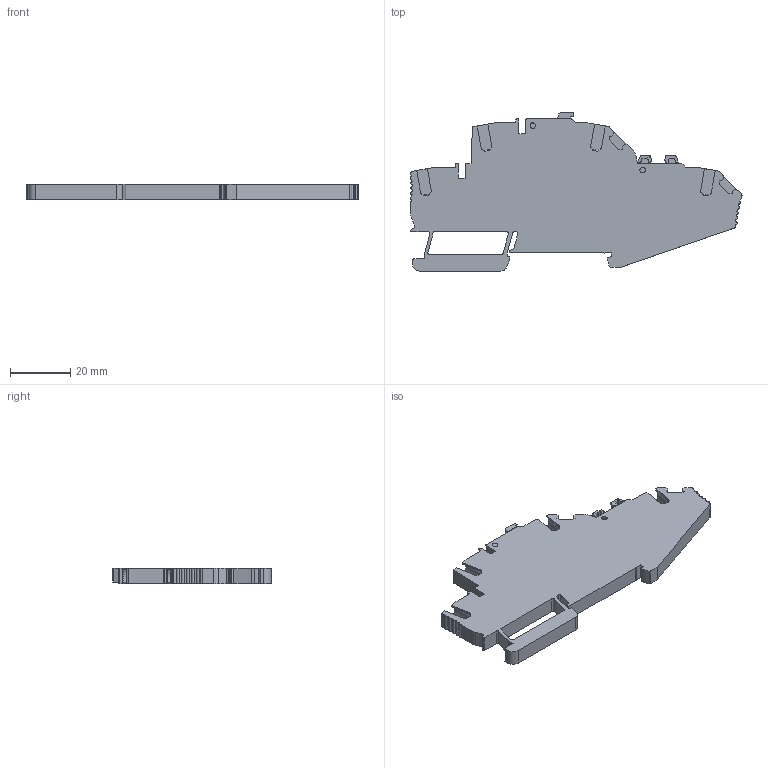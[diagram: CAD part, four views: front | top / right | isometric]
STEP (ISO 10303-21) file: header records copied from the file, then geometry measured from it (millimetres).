
FILE_DESCRIPTION(('Creo Elements/Direct Modeling STEP Export'),'2;1');
FILE_NAME('EFDS.2-1S.stp','2019-01-10T11:17:39',(''),(''),'Creo Elements/Direct Modeling STEP processor for AP214 (Solid Model)','Creo Elements/Direct Modeling 20.1 10-Mar-2018 (C) Parametric Technology GmbH','');
FILE_SCHEMA(('AUTOMOTIVE_DESIGN { 1 0 10303 214 1 1 1 1 }'));
Length unit declared in the file: millimetre
Products named in the file (2): EFDS.2-1S
Assembly tree (1 placements, depth 2):
  EFDS.2-1S
    EFDS.2-1S
Bounding box: 110.27 x 52.5 x 5.2 mm (x, y, z)
Volume: 17844.9 mm3; surface area: 12023 mm2
Topology: 1 solids, 1 shells, 455 faces, 1334 edges, 878 vertices
Faces by surface type: plane 319, cylinder 136
Entity records: 15119 total; most frequent: ORIENTED_EDGE 2668, CARTESIAN_POINT 2534, DIRECTION 2307, EDGE_CURVE 1334, VECTOR 1005, LINE 1005, VERTEX_POINT 878, AXIS2_PLACEMENT_3D 651
